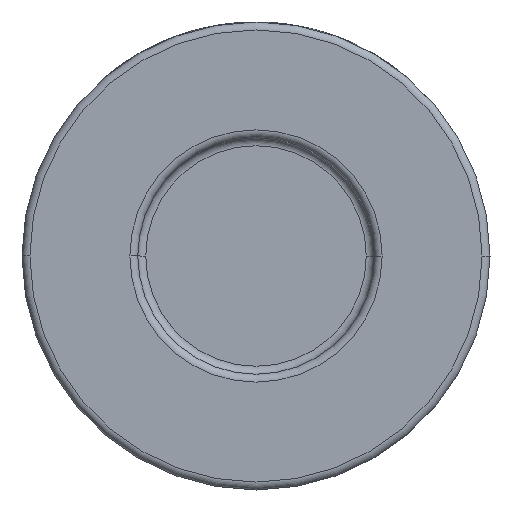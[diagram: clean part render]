
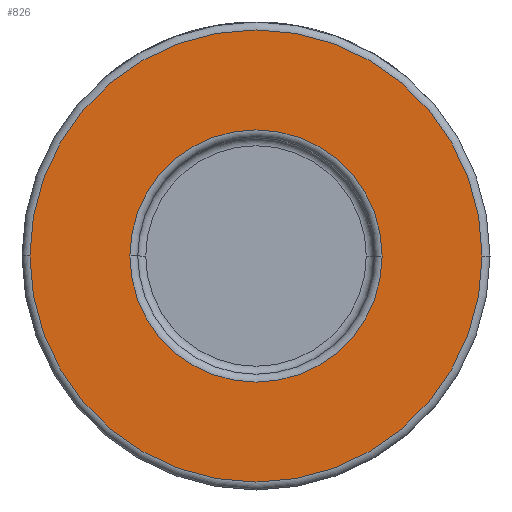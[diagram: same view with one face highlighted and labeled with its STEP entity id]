
A CAD part, front view. The second image highlights one B-rep face of the part: STEP entity #826.
In plain terms, the highlighted planar face has unit normal (0, -1, 0).
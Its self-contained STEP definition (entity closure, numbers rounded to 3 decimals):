
#107 = CARTESIAN_POINT ( 'NONE',  ( -15.9, -27., 0. ) ) ;
#274 = CARTESIAN_POINT ( 'NONE',  ( 28.5, -27., 0. ) ) ;
#423 = EDGE_CURVE ( 'NONE', #1316, #4607, #1663, .T. ) ;
#686 = AXIS2_PLACEMENT_3D ( 'NONE', #2108, #3928, #4581 ) ;
#737 = CIRCLE ( 'NONE', #2604, 28.5 ) ;
#762 = DIRECTION ( 'NONE',  ( 1., 0., 0. ) ) ;
#826 = ADVANCED_FACE ( 'NONE', ( #3516, #3863 ), #4601, .T. ) ;
#935 = VERTEX_POINT ( 'NONE', #1087 ) ;
#1087 = CARTESIAN_POINT ( 'NONE',  ( -28.5, -27., 0. ) ) ;
#1227 = DIRECTION ( 'NONE',  ( 0., 1., 0. ) ) ;
#1313 = CARTESIAN_POINT ( 'NONE',  ( 0., -27., 0. ) ) ;
#1316 = VERTEX_POINT ( 'NONE', #2828 ) ;
#1397 = ORIENTED_EDGE ( 'NONE', *, *, #2922, .T. ) ;
#1483 = CARTESIAN_POINT ( 'NONE',  ( 0., -27., 0. ) ) ;
#1663 = CIRCLE ( 'NONE', #3966, 15.9 ) ;
#1713 = DIRECTION ( 'NONE',  ( 1., 0., 0. ) ) ;
#1966 = DIRECTION ( 'NONE',  ( 0., -1., 0. ) ) ;
#2108 = CARTESIAN_POINT ( 'NONE',  ( 29.5, -27., 0. ) ) ;
#2459 = AXIS2_PLACEMENT_3D ( 'NONE', #1313, #1966, #3467 ) ;
#2495 = CARTESIAN_POINT ( 'NONE',  ( 0., -27., 0. ) ) ;
#2552 = DIRECTION ( 'NONE',  ( 1., 0., 0. ) ) ;
#2604 = AXIS2_PLACEMENT_3D ( 'NONE', #2829, #4333, #762 ) ;
#2729 = VERTEX_POINT ( 'NONE', #274 ) ;
#2763 = CIRCLE ( 'NONE', #3435, 15.9 ) ;
#2828 = CARTESIAN_POINT ( 'NONE',  ( 15.9, -27., 0. ) ) ;
#2829 = CARTESIAN_POINT ( 'NONE',  ( 0., -27., 0. ) ) ;
#2922 = EDGE_CURVE ( 'NONE', #2729, #935, #3884, .T. ) ;
#2938 = EDGE_LOOP ( 'NONE', ( #3186, #3567 ) ) ;
#3186 = ORIENTED_EDGE ( 'NONE', *, *, #423, .T. ) ;
#3245 = EDGE_CURVE ( 'NONE', #4607, #1316, #2763, .T. ) ;
#3435 = AXIS2_PLACEMENT_3D ( 'NONE', #2495, #3512, #1713 ) ;
#3467 = DIRECTION ( 'NONE',  ( 1., 0., 0. ) ) ;
#3512 = DIRECTION ( 'NONE',  ( 0., 1., 0. ) ) ;
#3516 = FACE_BOUND ( 'NONE', #2938, .T. ) ;
#3567 = ORIENTED_EDGE ( 'NONE', *, *, #3245, .T. ) ;
#3573 = ORIENTED_EDGE ( 'NONE', *, *, #4251, .T. ) ;
#3863 = FACE_OUTER_BOUND ( 'NONE', #4112, .T. ) ;
#3884 = CIRCLE ( 'NONE', #2459, 28.5 ) ;
#3928 = DIRECTION ( 'NONE',  ( 0., -1., 0. ) ) ;
#3966 = AXIS2_PLACEMENT_3D ( 'NONE', #1483, #1227, #2552 ) ;
#4112 = EDGE_LOOP ( 'NONE', ( #1397, #3573 ) ) ;
#4251 = EDGE_CURVE ( 'NONE', #935, #2729, #737, .T. ) ;
#4333 = DIRECTION ( 'NONE',  ( 0., -1., 0. ) ) ;
#4581 = DIRECTION ( 'NONE',  ( 1., 0., 0. ) ) ;
#4601 = PLANE ( 'NONE',  #686 ) ;
#4607 = VERTEX_POINT ( 'NONE', #107 ) ;
